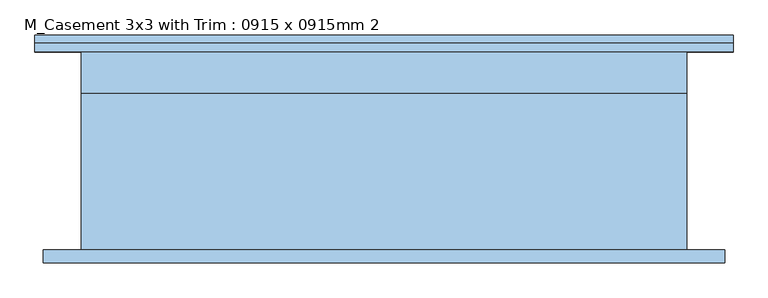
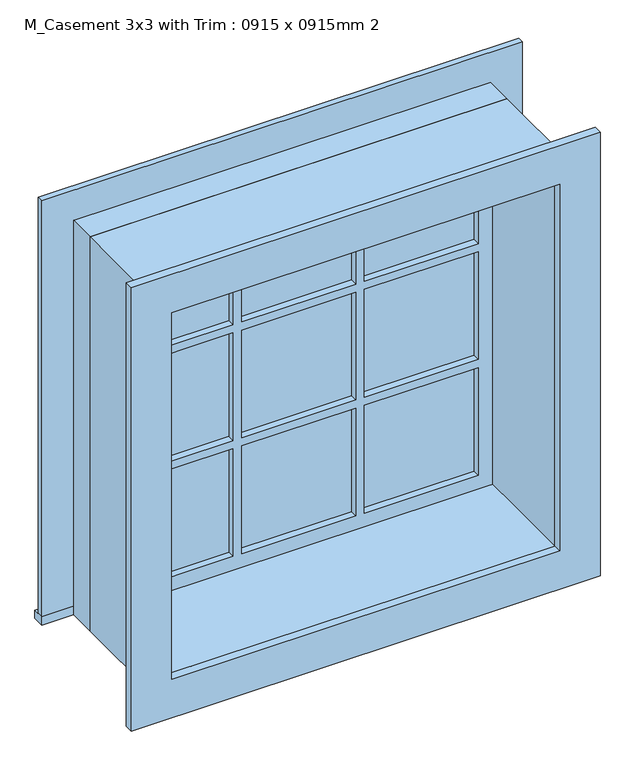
"""IFC4 building model written with IfcOpenShell, lengths in millimetres: window geometry, M_Casement 3x3 with Trim : 0915 x 0915mm 2."""

from ifc_helpers import new_model, si_unit, frame, origin, place, context, project, spatial, polyline, outline, extrude, source, transform, mapped, element, save


def m_casement_3x3_with_trim_0915_x_0915mm_2_71039012(model_context):
    return source(origin(), model_context, "Body", "SweptSolid", [
        extrude(outline(polyline([(-527.45, 175.7), (527.45, 175.7), (527.45, 150.0), (-527.45, 150.0), (-527.45, 175.7)])), frame((0.0, 0.0, 915.0), z_axis=(0.0, 0.0, 1.0), x_axis=(1.0, 0.0, 0.0)), (0.0, 0.0, 1.0), 19.05),
        extrude(outline(polyline([(1810.95, -438.45), (1810.95, 438.45), (934.05, 438.45), (934.05, 527.45), (1899.95, 527.45), (1899.95, -527.45), (934.05, -527.45), (934.05, -438.45), (1810.95, -438.45)])), frame((0.0, 150.0, 0.0), z_axis=(0.0, 1.0, 0.0), x_axis=(0.0, 0.0, 1.0)), (0.0, 0.0, 1.0), 13.0),
        extrude(outline(polyline([(144.0333333, 115.125), (394.0, 115.125), (394.0, 102.425), (144.0333333, 102.425), (144.0333333, 115.125)])), frame((0.0, 0.0, 1516.5333333), z_axis=(0.0, 0.0, 1.0), x_axis=(1.0, 0.0, 0.0)), (0.0, 0.0, 1.0), 249.9666667),
        extrude(outline(polyline([(-124.9833333, 115.125), (124.9833333, 115.125), (124.9833333, 102.425), (-124.9833333, 102.425), (-124.9833333, 115.125)])), frame((0.0, 0.0, 1516.5333333), z_axis=(0.0, 0.0, 1.0), x_axis=(1.0, 0.0, 0.0)), (0.0, 0.0, 1.0), 249.9666667),
        extrude(outline(polyline([(-394.0, 115.125), (-144.0333333, 115.125), (-144.0333333, 102.425), (-394.0, 102.425), (-394.0, 115.125)])), frame((0.0, 0.0, 1516.5333333), z_axis=(0.0, 0.0, 1.0), x_axis=(1.0, 0.0, 0.0)), (0.0, 0.0, 1.0), 249.9666667),
        extrude(outline(polyline([(-394.0, 115.125), (-144.0333333, 115.125), (-144.0333333, 102.425), (-394.0, 102.425), (-394.0, 115.125)])), frame((0.0, 0.0, 1247.5166667), z_axis=(0.0, 0.0, 1.0), x_axis=(1.0, 0.0, 0.0)), (0.0, 0.0, 1.0), 249.9666667),
        extrude(outline(polyline([(-124.9833333, 115.125), (124.9833333, 115.125), (124.9833333, 102.425), (-124.9833333, 102.425), (-124.9833333, 115.125)])), frame((0.0, 0.0, 1247.5166667), z_axis=(0.0, 0.0, 1.0), x_axis=(1.0, 0.0, 0.0)), (0.0, 0.0, 1.0), 249.9666667),
        extrude(outline(polyline([(144.0333333, 115.125), (394.0, 115.125), (394.0, 102.425), (144.0333333, 102.425), (144.0333333, 115.125)])), frame((0.0, 0.0, 1247.5166667), z_axis=(0.0, 0.0, 1.0), x_axis=(1.0, 0.0, 0.0)), (0.0, 0.0, 1.0), 249.9666667),
        extrude(outline(polyline([(144.0333333, 115.125), (394.0, 115.125), (394.0, 102.425), (144.0333333, 102.425), (144.0333333, 115.125)])), frame((0.0, 0.0, 978.5), z_axis=(0.0, 0.0, 1.0), x_axis=(1.0, 0.0, 0.0)), (0.0, 0.0, 1.0), 249.9666667),
        extrude(outline(polyline([(-124.9833333, 115.125), (124.9833333, 115.125), (124.9833333, 102.425), (-124.9833333, 102.425), (-124.9833333, 115.125)])), frame((0.0, 0.0, 978.5), z_axis=(0.0, 0.0, 1.0), x_axis=(1.0, 0.0, 0.0)), (0.0, 0.0, 1.0), 249.9666667),
        extrude(outline(polyline([(-394.0, 115.125), (-144.0333333, 115.125), (-144.0333333, 102.425), (-394.0, 102.425), (-394.0, 115.125)])), frame((0.0, 0.0, 978.5), z_axis=(0.0, 0.0, 1.0), x_axis=(1.0, 0.0, 0.0)), (0.0, 0.0, 1.0), 249.9666667),
        extrude(outline(polyline([(1887.25, 514.75), (1887.25, -514.75), (857.75, -514.75), (857.75, 514.75), (1887.25, 514.75)]), holes=[polyline([(1798.25, 425.75), (946.75, 425.75), (946.75, -425.75), (1798.25, -425.75), (1798.25, 425.75)])]), frame((0.0, -169.0, 0.0), z_axis=(0.0, 1.0, 0.0), x_axis=(0.0, 0.0, 1.0)), (0.0, 0.0, 1.0), 19.0),
        extrude(outline(polyline([(1810.95, -438.45), (934.05, -438.45), (934.05, 438.45), (1810.95, 438.45), (1810.95, -438.45)]), holes=[polyline([(1766.5, -144.0333333), (1516.5333333, -144.0333333), (1516.5333333, -394.0), (1766.5, -394.0), (1766.5, -144.0333333)]), polyline([(1497.4833333, -144.0333333), (1247.5166667, -144.0333333), (1247.5166667, -394.0), (1497.4833333, -394.0), (1497.4833333, -144.0333333)]), polyline([(1228.4666667, -144.0333333), (978.5, -144.0333333), (978.5, -394.0), (1228.4666667, -394.0), (1228.4666667, -144.0333333)]), polyline([(1766.5, 124.9833333), (1516.5333333, 124.9833333), (1516.5333333, -124.9833333), (1766.5, -124.9833333), (1766.5, 124.9833333)]), polyline([(1497.4833333, 124.9833333), (1247.5166667, 124.9833333), (1247.5166667, -124.9833333), (1497.4833333, -124.9833333), (1497.4833333, 124.9833333)]), polyline([(1228.4666667, 124.9833333), (978.5, 124.9833333), (978.5, -124.9833333), (1228.4666667, -124.9833333), (1228.4666667, 124.9833333)]), polyline([(1766.5, 394.0), (1516.5333333, 394.0), (1516.5333333, 144.0333333), (1766.5, 144.0333333), (1766.5, 394.0)]), polyline([(1497.4833333, 394.0), (1247.5166667, 394.0), (1247.5166667, 144.0333333), (1497.4833333, 144.0333333), (1497.4833333, 394.0)]), polyline([(1228.4666667, 394.0), (978.5, 394.0), (978.5, 144.0333333), (1228.4666667, 144.0333333), (1228.4666667, 394.0)])]), frame((0.0, 86.55, 0.0), z_axis=(0.0, 1.0, 0.0), x_axis=(0.0, 0.0, 1.0)), (0.0, 0.0, 1.0), 44.45),
        extrude(outline(polyline([(1830.0, -457.5), (915.0, -457.5), (915.0, 457.5), (1830.0, 457.5), (1830.0, -457.5)]), holes=[polyline([(1798.25, -425.75), (1798.25, 425.75), (946.75, 425.75), (946.75, -425.75), (1798.25, -425.75)])]), frame((0.0, -150.0, 0.0), z_axis=(0.0, 1.0, 0.0), x_axis=(0.0, 0.0, 1.0)), (0.0, 0.0, 1.0), 236.55),
        extrude(outline(polyline([(1830.0, 457.5), (1830.0, -457.5), (915.0, -457.5), (915.0, 457.5), (1830.0, 457.5)]), holes=[polyline([(1810.95, 438.45), (934.05, 438.45), (934.05, -438.45), (1810.95, -438.45), (1810.95, 438.45)])]), frame((0.0, 86.55, 0.0), z_axis=(0.0, 1.0, 0.0), x_axis=(0.0, 0.0, 1.0)), (0.0, 0.0, 1.0), 63.45),
    ])


if __name__ == "__main__":
    model = new_model("IFC4")
    model_context = context("Model", 3, world=origin())
    ifc_project = project(units=[si_unit("LENGTHUNIT", "METRE", prefix="MILLI")], contexts=[model_context])
    site = spatial("IfcSite", under=ifc_project)
    building = spatial("IfcBuilding", under=site)
    placement = place(None, origin())
    m_casement_3x3_with_trim_0915_x_0915mm_2_shape = m_casement_3x3_with_trim_0915_x_0915mm_2_71039012(model_context)
    element("IfcWindow", 1, ObjectType="M_Casement 3x3 with Trim : 0915 x 0915mm 2", at=placement, inside=building, context=model_context, shape_type="MappedRepresentation", body=[
        mapped(m_casement_3x3_with_trim_0915_x_0915mm_2_shape, transform((0.0, 0.0, 0.0), x_axis=(1.0, 0.0, 0.0), y_axis=(0.0, 1.0, 0.0), z_axis=(0.0, 0.0, 1.0))),
    ])
    save(model, "model.ifc")
